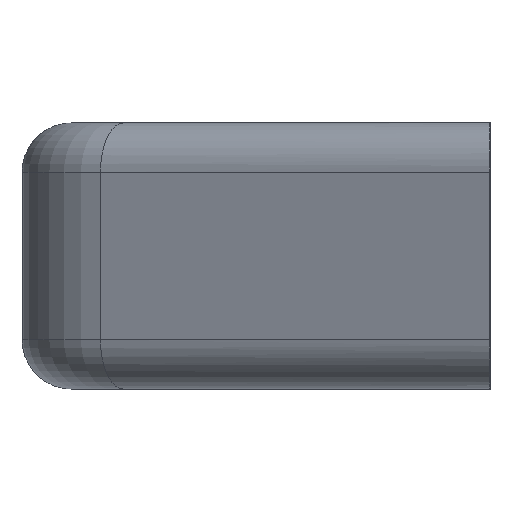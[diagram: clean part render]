
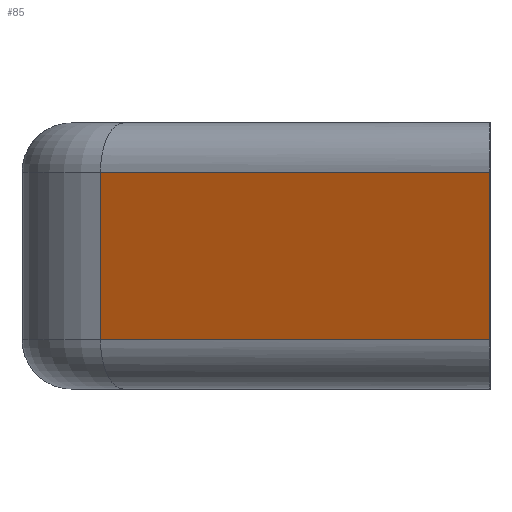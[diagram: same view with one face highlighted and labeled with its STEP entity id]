
A CAD part, left-side view. The second image highlights one B-rep face of the part: STEP entity #85.
In plain terms, the highlighted planar face has unit normal (-0.883, 0.469, 0).
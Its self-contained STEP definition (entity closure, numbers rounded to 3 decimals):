
#85 = ADVANCED_FACE( '', ( #141 ), #142, .F. );
#141 = FACE_OUTER_BOUND( '', #229, .T. );
#142 = PLANE( '', #230 );
#229 = EDGE_LOOP( '', ( #367, #368, #369, #370 ) );
#230 = AXIS2_PLACEMENT_3D( '', #371, #372, #373 );
#367 = ORIENTED_EDGE( '', *, *, #619, .F. );
#368 = ORIENTED_EDGE( '', *, *, #627, .T. );
#369 = ORIENTED_EDGE( '', *, *, #628, .T. );
#370 = ORIENTED_EDGE( '', *, *, #629, .T. );
#371 = CARTESIAN_POINT( '', ( -85.975, 39.542, 13.5 ) );
#372 = DIRECTION( '', ( 0.883, -0.469, 0. ) );
#373 = DIRECTION( '', ( 0.469, 0.883, 0. ) );
#619 = EDGE_CURVE( '', #734, #736, #737, .T. );
#627 = EDGE_CURVE( '', #734, #749, #750, .F. );
#628 = EDGE_CURVE( '', #749, #751, #752, .T. );
#629 = EDGE_CURVE( '', #751, #736, #753, .T. );
#734 = VERTEX_POINT( '', #890 );
#736 = VERTEX_POINT( '', #892 );
#737 = LINE( '', #893, #894 );
#749 = VERTEX_POINT( '', #910 );
#750 = LINE( '', #911, #912 );
#751 = VERTEX_POINT( '', #913 );
#752 = LINE( '', #914, #915 );
#753 = LINE( '', #916, #917 );
#890 = CARTESIAN_POINT( '', ( -107., 0., 8.5 ) );
#892 = CARTESIAN_POINT( '', ( -107., 0., -8.5 ) );
#893 = CARTESIAN_POINT( '', ( -107., 0., 13.5 ) );
#894 = VECTOR( '', #1055, 1000. );
#910 = CARTESIAN_POINT( '', ( -85.975, 39.542, 8.5 ) );
#911 = CARTESIAN_POINT( '', ( -85.975, 39.542, 8.5 ) );
#912 = VECTOR( '', #1069, 1000. );
#913 = CARTESIAN_POINT( '', ( -85.975, 39.542, -8.5 ) );
#914 = CARTESIAN_POINT( '', ( -85.975, 39.542, 13.5 ) );
#915 = VECTOR( '', #1070, 1000. );
#916 = CARTESIAN_POINT( '', ( -85.975, 39.542, -8.5 ) );
#917 = VECTOR( '', #1071, 1000. );
#1055 = DIRECTION( '', ( 0., 0., -1. ) );
#1069 = DIRECTION( '', ( -0.469, -0.883, 0. ) );
#1070 = DIRECTION( '', ( 0., 0., -1. ) );
#1071 = DIRECTION( '', ( -0.469, -0.883, 0. ) );
